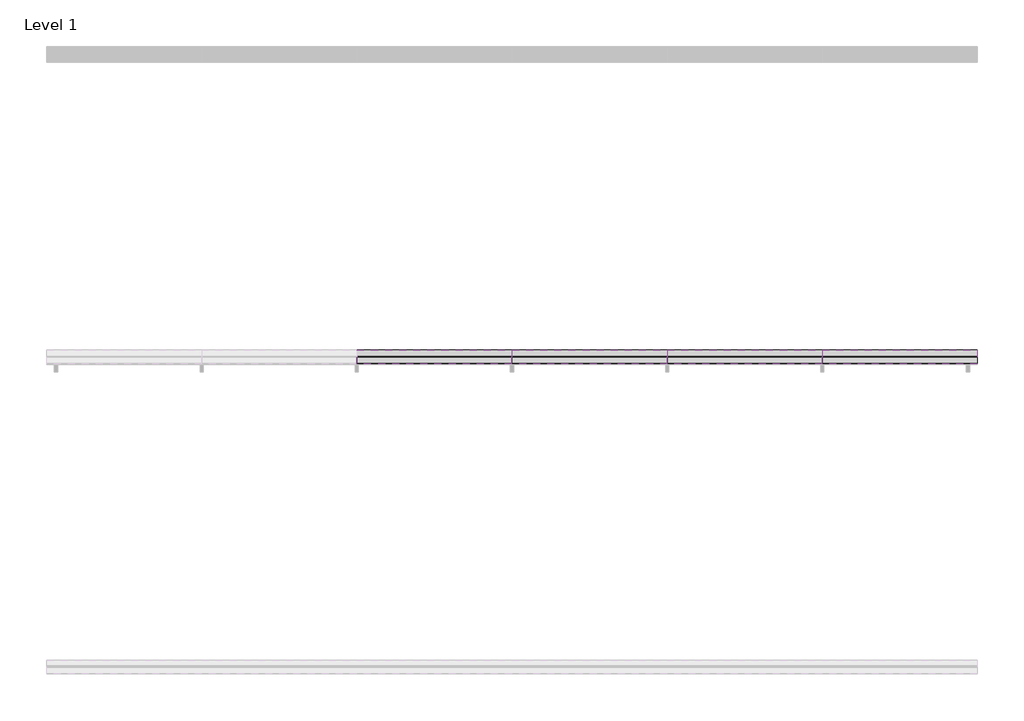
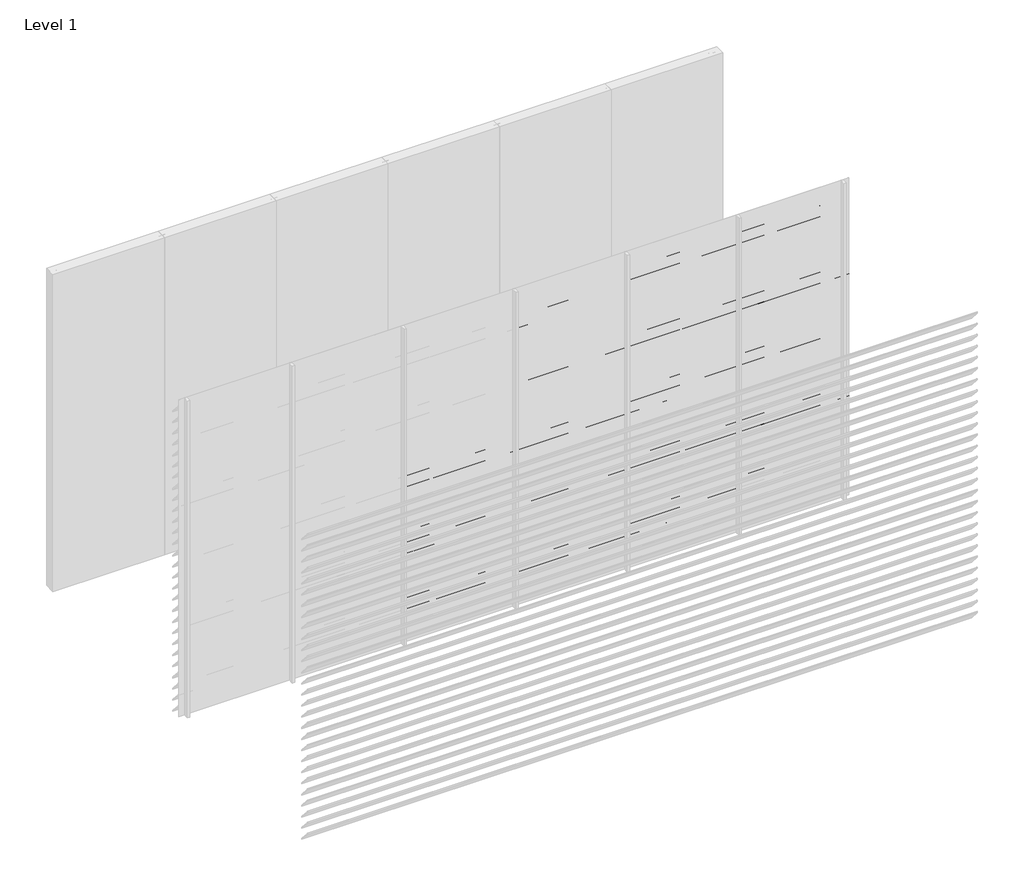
# One storey, part 7 of 9: 95 proxies.
"""IFC4 building model written with IfcOpenShell, lengths in millimetres."""

import ifcopenshell
import ifcopenshell.guid

model = None  # the IFC model being written
_history = None  # IfcOwnerHistory: only IFC2X3 demands one
_inside = {}  # id of a spatial element -> (the spatial element, [elements in it])
_under = {}  # id of a project, library or spatial element -> (it, [spatial elements below it])
_declared = {}  # id of a project -> (the project, [libraries it declares])
_typed = {}  # id of a type object -> (the type object, [elements of that type])
_made_of = {}  # id of a material, layer set ... -> (it, [elements and type objects made of it])


def new_model(schema):
    """Start an empty IFC model of exactly this schema.

    Asked for "IFC4X3", IfcOpenShell would pick the latest addendum, in which some entities
    have other attributes; the version numbers below select the first issue.
    IFC2X3 requires an IfcOwnerHistory on every rooted entity: one is made here for all.
    """
    global model, _history
    if schema == "IFC4X3":
        model = ifcopenshell.file(schema_version=(4, 3, 0, 0))
    else:
        model = ifcopenshell.file(schema=schema)
    _inside.clear()
    _under.clear()
    _declared.clear()
    _typed.clear()
    _made_of.clear()
    _history = None
    if model.schema == "IFC2X3":
        org = make("IfcOrganization", Name="unknown")
        user = make(
            "IfcPersonAndOrganization",
            ThePerson=make("IfcPerson", FamilyName="unknown"),
            TheOrganization=org,
        )
        app = make(
            "IfcApplication",
            ApplicationDeveloper=org,
            Version="unknown",
            ApplicationFullName="unknown",
            ApplicationIdentifier="unknown",
        )
        _history = make(
            "IfcOwnerHistory",
            OwningUser=user,
            OwningApplication=app,
            ChangeAction="ADDED",
            CreationDate=0,
        )
    return model


def make(cls, **values):
    """One entity of the class cls with the attributes given. An attribute that is None is left unset."""
    return model.create_entity(
        cls, **{name: value for name, value in values.items() if value is not None}
    )


def rooted(cls, **values):
    """An entity with a GlobalId (a new one), such as an element, a storey or a relation."""
    return make(cls, GlobalId=ifcopenshell.guid.new(), OwnerHistory=_history, **values)


def si_unit(unit_type, name, prefix=None):
    """IfcSIUnit, for example si_unit("LENGTHUNIT", "METRE", prefix="MILLI")."""
    return make("IfcSIUnit", UnitType=unit_type, Prefix=prefix, Name=name)


def assignment(units):
    """IfcUnitAssignment: the units of a project."""
    return None if units is None else make("IfcUnitAssignment", Units=units)


def point(xyz):
    """IfcCartesianPoint."""
    return None if xyz is None else make("IfcCartesianPoint", Coordinates=xyz)


def direction(xyz):
    """IfcDirection."""
    return None if xyz is None else make("IfcDirection", DirectionRatios=xyz)


def frame(location, z_axis=None, x_axis=None):
    """IfcAxis2Placement3D, a coordinate frame: its origin and axes. An axis left out is left unset."""
    return make(
        "IfcAxis2Placement3D",
        Location=point(location),
        Axis=direction(z_axis),
        RefDirection=direction(x_axis),
    )


def origin():
    """The frame at (0, 0, 0) with its axes left unset."""
    return frame((0.0, 0.0, 0.0))


def place(relative_to, where):
    """IfcLocalPlacement: puts the frame where relative to a parent placement (None: the world)."""
    return make(
        "IfcLocalPlacement", PlacementRelTo=relative_to, RelativePlacement=where
    )


def context(
    kind, dimensions, precision=None, world=None, true_north=None, identifier=None
):
    """IfcGeometricRepresentationContext, for example the 3D "Model" context."""
    return make(
        "IfcGeometricRepresentationContext",
        ContextIdentifier=identifier,
        ContextType=kind,
        CoordinateSpaceDimension=dimensions,
        Precision=precision,
        WorldCoordinateSystem=world,
        TrueNorth=true_north,
    )


def project(units=None, contexts=None):
    """IfcProject with its units and contexts."""
    return rooted(
        "IfcProject",
        Name="project",
        RepresentationContexts=contexts,
        UnitsInContext=assignment(units),
    )


def spatial(cls, under=None, at=None, **own):
    """A site, building, storey or space (cls), placed at a placement, below another one or the project."""
    s = rooted(cls, ObjectPlacement=at, **own)
    if under is not None:
        _under.setdefault(under.id(), (under, []))[1].append(s)
    return s


def polyline(points):
    """IfcPolyline through the points."""
    return make("IfcPolyline", Points=[point(p) for p in points])


def outline(outer, holes=None, kind="AREA"):
    """IfcArbitraryClosedProfileDef: a profile drawn as a closed curve; with holes, ...WithVoids."""
    if holes is None:
        return make("IfcArbitraryClosedProfileDef", ProfileType=kind, OuterCurve=outer)
    return make(
        "IfcArbitraryProfileDefWithVoids",
        ProfileType=kind,
        OuterCurve=outer,
        InnerCurves=holes,
    )


def extrude(swept, where, along, depth):
    """IfcExtrudedAreaSolid: the profile swept, set in the frame where, extruded along a direction by depth."""
    return make(
        "IfcExtrudedAreaSolid",
        SweptArea=swept,
        Position=where,
        ExtrudedDirection=direction(along),
        Depth=depth,
    )


def shape(context_of_items, identifier, shape_type, items):
    """IfcShapeRepresentation: the items that make up one representation, for example the "Body"."""
    return make(
        "IfcShapeRepresentation",
        ContextOfItems=context_of_items,
        RepresentationIdentifier=identifier,
        RepresentationType=shape_type,
        Items=items,
    )


def made_of(thing, what):
    """Note that an element or type object is made of a material, layer set ...; save() writes the relation."""
    if what is not None:
        _made_of.setdefault(what.id(), (what, []))[1].append(thing)
    return thing


def element(
    cls,
    number,
    at=None,
    inside=None,
    cuts=None,
    type_object=None,
    material=None,
    context=None,
    identifier="Body",
    shape_type=None,
    held_by="IfcProductDefinitionShape",
    body=None,
    shapes=None,
    **own,
):
    """One element of the class cls, such as IfcWall. Its Tag is "e" and its number.

    at: its placement. inside: the storey or other place that contains it. cuts: it is an
    opening in that element (IfcRelVoidsElement). A single representation is given by context,
    identifier, shape_type and body (its items); several are given by shapes. held_by: the class
    of the entity that holds the representations. save() writes the other relations.
    """
    e = rooted(cls, Tag="e%d" % number, ObjectPlacement=at, **own)
    if body is not None:
        shapes = [shape(context, identifier, shape_type, body)]
    if shapes is not None:
        e.Representation = make(held_by, Representations=shapes)
    if inside is not None:
        _inside.setdefault(inside.id(), (inside, []))[1].append(e)
    if cuts is not None:
        rooted(
            "IfcRelVoidsElement", RelatingBuildingElement=cuts, RelatedOpeningElement=e
        )
    if type_object is not None:
        _typed.setdefault(type_object.id(), (type_object, []))[1].append(e)
    return made_of(e, material)


def aggregate(whole, parts):
    """IfcRelAggregates: a whole, such as a stair, and the parts it consists of."""
    return rooted("IfcRelAggregates", RelatingObject=whole, RelatedObjects=parts)


def save(model, path):
    """Write the relations noted so far, then the file.

    IfcRelAggregates (storeys below a building ...), IfcRelContainedInSpatialStructure (elements
    in a storey), IfcRelDefinesByType, IfcRelAssociatesMaterial and IfcRelDeclares: one each for
    every whole, place, type object, material and project.
    """
    for whole, parts in _under.values():
        aggregate(whole, parts)
    for where, things in _inside.values():
        rooted(
            "IfcRelContainedInSpatialStructure",
            RelatedElements=things,
            RelatingStructure=where,
        )
    for kind, things in _typed.values():
        rooted("IfcRelDefinesByType", RelatedObjects=things, RelatingType=kind)
    for what, things in _made_of.values():
        rooted("IfcRelAssociatesMaterial", RelatedObjects=things, RelatingMaterial=what)
    for by, libraries in _declared.values():
        rooted("IfcRelDeclares", RelatingContext=by, RelatedDefinitions=libraries)
    model.write(path)


model = new_model("IFC4")

# Units and contexts
model_context = context("Model", 3, world=origin())
ifc_project = project(units=[si_unit("LENGTHUNIT", "METRE", prefix="MILLI")], contexts=[model_context])

# Site, building, storey
site = spatial("IfcSite", under=ifc_project)
building = spatial("IfcBuilding", under=site)
storey = spatial("IfcBuildingStorey", under=building, Name="Level 1", Elevation=0.0)

# Proxies
placement = place(None, origin())
element("IfcBuildingElementProxy", 1, Name="Wall Sweeps", at=placement, inside=storey, context=model_context, shape_type="SweptSolid", body=[
    extrude(outline(polyline([(-5995.0, 1575.0), (-5995.0, 1570.6232888), (-5908.0, 1474.0), (-5908.0, 1464.0), (-5997.0, 1562.8445138), (-5997.0, 1575.0), (-5995.0, 1575.0)])), frame((2000.0, 0.0, 0.0), z_axis=(1.0, 0.0, 0.0), x_axis=(0.0, 1.0, 0.0)), (0.0, 0.0, 1.0), 1000.0),
])
element("IfcBuildingElementProxy", 2, Name="Wall Sweeps", at=placement, inside=storey, context=model_context, shape_type="SweptSolid", body=[
    extrude(outline(polyline([(-5995.0, 1470.0), (-5995.0, 1465.6232888), (-5908.0, 1369.0), (-5908.0, 1359.0), (-5997.0, 1457.8445138), (-5997.0, 1470.0), (-5995.0, 1470.0)])), frame((2000.0, 0.0, 0.0), z_axis=(1.0, 0.0, 0.0), x_axis=(0.0, 1.0, 0.0)), (0.0, 0.0, 1.0), 1000.0),
])
element("IfcBuildingElementProxy", 3, Name="Wall Sweeps", at=placement, inside=storey, context=model_context, shape_type="SweptSolid", body=[
    extrude(outline(polyline([(-5995.0, 1365.0), (-5995.0, 1360.6232888), (-5908.0, 1264.0), (-5908.0, 1254.0), (-5997.0, 1352.8445138), (-5997.0, 1365.0), (-5995.0, 1365.0)])), frame((2000.0, 0.0, 0.0), z_axis=(1.0, 0.0, 0.0), x_axis=(0.0, 1.0, 0.0)), (0.0, 0.0, 1.0), 1000.0),
])
element("IfcBuildingElementProxy", 4, Name="Wall Sweeps", at=placement, inside=storey, context=model_context, shape_type="SweptSolid", body=[
    extrude(outline(polyline([(-5995.0, 1260.0), (-5995.0, 1255.6232888), (-5908.0, 1159.0), (-5908.0, 1149.0), (-5997.0, 1247.8445138), (-5997.0, 1260.0), (-5995.0, 1260.0)])), frame((2000.0, 0.0, 0.0), z_axis=(1.0, 0.0, 0.0), x_axis=(0.0, 1.0, 0.0)), (0.0, 0.0, 1.0), 1000.0),
])
element("IfcBuildingElementProxy", 5, Name="Wall Sweeps", at=placement, inside=storey, context=model_context, shape_type="SweptSolid", body=[
    extrude(outline(polyline([(-5995.0, 1155.0), (-5995.0, 1150.6232888), (-5908.0, 1054.0), (-5908.0, 1044.0), (-5997.0, 1142.8445138), (-5997.0, 1155.0), (-5995.0, 1155.0)])), frame((2000.0, 0.0, 0.0), z_axis=(1.0, 0.0, 0.0), x_axis=(0.0, 1.0, 0.0)), (0.0, 0.0, 1.0), 1000.0),
])
element("IfcBuildingElementProxy", 6, Name="Wall Sweeps", at=placement, inside=storey, context=model_context, shape_type="SweptSolid", body=[
    extrude(outline(polyline([(-5995.0, 1050.0), (-5995.0, 1045.6232888), (-5908.0, 949.0), (-5908.0, 939.0), (-5997.0, 1037.8445138), (-5997.0, 1050.0), (-5995.0, 1050.0)])), frame((2000.0, 0.0, 0.0), z_axis=(1.0, 0.0, 0.0), x_axis=(0.0, 1.0, 0.0)), (0.0, 0.0, 1.0), 1000.0),
])
element("IfcBuildingElementProxy", 7, Name="Wall Sweeps", at=placement, inside=storey, context=model_context, shape_type="SweptSolid", body=[
    extrude(outline(polyline([(-5995.0, 945.0), (-5995.0, 940.6232888), (-5908.0, 844.0), (-5908.0, 834.0), (-5997.0, 932.8445138), (-5997.0, 945.0), (-5995.0, 945.0)])), frame((2000.0, 0.0, 0.0), z_axis=(1.0, 0.0, 0.0), x_axis=(0.0, 1.0, 0.0)), (0.0, 0.0, 1.0), 1000.0),
])
element("IfcBuildingElementProxy", 8, Name="Wall Sweeps", at=placement, inside=storey, context=model_context, shape_type="SweptSolid", body=[
    extrude(outline(polyline([(-5995.0, 840.0), (-5995.0, 835.6232888), (-5908.0, 739.0), (-5908.0, 729.0), (-5997.0, 827.8445138), (-5997.0, 840.0), (-5995.0, 840.0)])), frame((2000.0, 0.0, 0.0), z_axis=(1.0, 0.0, 0.0), x_axis=(0.0, 1.0, 0.0)), (0.0, 0.0, 1.0), 1000.0),
])
element("IfcBuildingElementProxy", 9, Name="Wall Sweeps", at=placement, inside=storey, context=model_context, shape_type="SweptSolid", body=[
    extrude(outline(polyline([(-5995.0, 735.0), (-5995.0, 730.6232888), (-5908.0, 634.0), (-5908.0, 624.0), (-5997.0, 722.8445138), (-5997.0, 735.0), (-5995.0, 735.0)])), frame((2000.0, 0.0, 0.0), z_axis=(1.0, 0.0, 0.0), x_axis=(0.0, 1.0, 0.0)), (0.0, 0.0, 1.0), 1000.0),
])
element("IfcBuildingElementProxy", 10, Name="Wall Sweeps", at=placement, inside=storey, context=model_context, shape_type="SweptSolid", body=[
    extrude(outline(polyline([(-5995.0, 630.0), (-5995.0, 625.6232888), (-5908.0, 529.0), (-5908.0, 519.0), (-5997.0, 617.8445138), (-5997.0, 630.0), (-5995.0, 630.0)])), frame((2000.0, 0.0, 0.0), z_axis=(1.0, 0.0, 0.0), x_axis=(0.0, 1.0, 0.0)), (0.0, 0.0, 1.0), 1000.0),
])
element("IfcBuildingElementProxy", 11, Name="Wall Sweeps", at=placement, inside=storey, context=model_context, shape_type="SweptSolid", body=[
    extrude(outline(polyline([(-5995.0, 525.0), (-5995.0, 520.6232888), (-5908.0, 424.0), (-5908.0, 414.0), (-5997.0, 512.8445138), (-5997.0, 525.0), (-5995.0, 525.0)])), frame((2000.0, 0.0, 0.0), z_axis=(1.0, 0.0, 0.0), x_axis=(0.0, 1.0, 0.0)), (0.0, 0.0, 1.0), 1000.0),
])
element("IfcBuildingElementProxy", 12, Name="Wall Sweeps", at=placement, inside=storey, context=model_context, shape_type="SweptSolid", body=[
    extrude(outline(polyline([(-5995.0, 420.0), (-5995.0, 415.6232888), (-5908.0, 319.0), (-5908.0, 309.0), (-5997.0, 407.8445138), (-5997.0, 420.0), (-5995.0, 420.0)])), frame((2000.0, 0.0, 0.0), z_axis=(1.0, 0.0, 0.0), x_axis=(0.0, 1.0, 0.0)), (0.0, 0.0, 1.0), 1000.0),
])
element("IfcBuildingElementProxy", 13, Name="Wall Sweeps", at=placement, inside=storey, context=model_context, shape_type="SweptSolid", body=[
    extrude(outline(polyline([(-5995.0, 315.0), (-5995.0, 310.6232888), (-5908.0, 214.0), (-5908.0, 204.0), (-5997.0, 302.8445138), (-5997.0, 315.0), (-5995.0, 315.0)])), frame((2000.0, 0.0, 0.0), z_axis=(1.0, 0.0, 0.0), x_axis=(0.0, 1.0, 0.0)), (0.0, 0.0, 1.0), 1000.0),
])
element("IfcBuildingElementProxy", 14, Name="Wall Sweeps", at=placement, inside=storey, context=model_context, shape_type="SweptSolid", body=[
    extrude(outline(polyline([(-5995.0, 210.0), (-5995.0, 205.6232888), (-5908.0, 109.0), (-5908.0, 99.0), (-5997.0, 197.8445138), (-5997.0, 210.0), (-5995.0, 210.0)])), frame((2000.0, 0.0, 0.0), z_axis=(1.0, 0.0, 0.0), x_axis=(0.0, 1.0, 0.0)), (0.0, 0.0, 1.0), 1000.0),
])
element("IfcBuildingElementProxy", 15, Name="Wall Sweeps", at=placement, inside=storey, context=model_context, shape_type="SweptSolid", body=[
    extrude(outline(polyline([(-5995.0, 105.0), (-5995.0, 100.6232888), (-5908.0, 4.0), (-5908.0, -6.0), (-5997.0, 92.8445138), (-5997.0, 105.0), (-5995.0, 105.0)])), frame((2000.0, 0.0, 0.0), z_axis=(1.0, 0.0, 0.0), x_axis=(0.0, 1.0, 0.0)), (0.0, 0.0, 1.0), 1000.0),
])
element("IfcBuildingElementProxy", 16, Name="Wall Sweeps", at=placement, inside=storey, context=model_context, shape_type="SweptSolid", body=[
    extrude(outline(polyline([(-5995.0, 2940.0), (-5995.0, 2935.6232888), (-5908.0, 2839.0), (-5908.0, 2829.0), (-5997.0, 2927.8445138), (-5997.0, 2940.0), (-5995.0, 2940.0)])), frame((3000.0, 0.0, 0.0), z_axis=(1.0, 0.0, 0.0), x_axis=(0.0, 1.0, 0.0)), (0.0, 0.0, 1.0), 1000.0),
])
element("IfcBuildingElementProxy", 17, Name="Wall Sweeps", at=placement, inside=storey, context=model_context, shape_type="SweptSolid", body=[
    extrude(outline(polyline([(-5995.0, 2835.0), (-5995.0, 2830.6232888), (-5908.0, 2734.0), (-5908.0, 2724.0), (-5997.0, 2822.8445138), (-5997.0, 2835.0), (-5995.0, 2835.0)])), frame((3000.0, 0.0, 0.0), z_axis=(1.0, 0.0, 0.0), x_axis=(0.0, 1.0, 0.0)), (0.0, 0.0, 1.0), 1000.0),
])
element("IfcBuildingElementProxy", 18, Name="Wall Sweeps", at=placement, inside=storey, context=model_context, shape_type="SweptSolid", body=[
    extrude(outline(polyline([(-5995.0, 2730.0), (-5995.0, 2725.6232888), (-5908.0, 2629.0), (-5908.0, 2619.0), (-5997.0, 2717.8445138), (-5997.0, 2730.0), (-5995.0, 2730.0)])), frame((3000.0, 0.0, 0.0), z_axis=(1.0, 0.0, 0.0), x_axis=(0.0, 1.0, 0.0)), (0.0, 0.0, 1.0), 1000.0),
])
element("IfcBuildingElementProxy", 19, Name="Wall Sweeps", at=placement, inside=storey, context=model_context, shape_type="SweptSolid", body=[
    extrude(outline(polyline([(-5995.0, 2625.0), (-5995.0, 2620.6232888), (-5908.0, 2524.0), (-5908.0, 2514.0), (-5997.0, 2612.8445138), (-5997.0, 2625.0), (-5995.0, 2625.0)])), frame((3000.0, 0.0, 0.0), z_axis=(1.0, 0.0, 0.0), x_axis=(0.0, 1.0, 0.0)), (0.0, 0.0, 1.0), 1000.0),
])
element("IfcBuildingElementProxy", 20, Name="Wall Sweeps", at=placement, inside=storey, context=model_context, shape_type="SweptSolid", body=[
    extrude(outline(polyline([(-5995.0, 2520.0), (-5995.0, 2515.6232888), (-5908.0, 2419.0), (-5908.0, 2409.0), (-5997.0, 2507.8445138), (-5997.0, 2520.0), (-5995.0, 2520.0)])), frame((3000.0, 0.0, 0.0), z_axis=(1.0, 0.0, 0.0), x_axis=(0.0, 1.0, 0.0)), (0.0, 0.0, 1.0), 1000.0),
])
element("IfcBuildingElementProxy", 21, Name="Wall Sweeps", at=placement, inside=storey, context=model_context, shape_type="SweptSolid", body=[
    extrude(outline(polyline([(-5995.0, 2415.0), (-5995.0, 2410.6232888), (-5908.0, 2314.0), (-5908.0, 2304.0), (-5997.0, 2402.8445138), (-5997.0, 2415.0), (-5995.0, 2415.0)])), frame((3000.0, 0.0, 0.0), z_axis=(1.0, 0.0, 0.0), x_axis=(0.0, 1.0, 0.0)), (0.0, 0.0, 1.0), 1000.0),
])
element("IfcBuildingElementProxy", 22, Name="Wall Sweeps", at=placement, inside=storey, context=model_context, shape_type="SweptSolid", body=[
    extrude(outline(polyline([(-5995.0, 2310.0), (-5995.0, 2305.6232888), (-5908.0, 2209.0), (-5908.0, 2199.0), (-5997.0, 2297.8445138), (-5997.0, 2310.0), (-5995.0, 2310.0)])), frame((3000.0, 0.0, 0.0), z_axis=(1.0, 0.0, 0.0), x_axis=(0.0, 1.0, 0.0)), (0.0, 0.0, 1.0), 1000.0),
])
element("IfcBuildingElementProxy", 23, Name="Wall Sweeps", at=placement, inside=storey, context=model_context, shape_type="SweptSolid", body=[
    extrude(outline(polyline([(-5995.0, 2205.0), (-5995.0, 2200.6232888), (-5908.0, 2104.0), (-5908.0, 2094.0), (-5997.0, 2192.8445138), (-5997.0, 2205.0), (-5995.0, 2205.0)])), frame((3000.0, 0.0, 0.0), z_axis=(1.0, 0.0, 0.0), x_axis=(0.0, 1.0, 0.0)), (0.0, 0.0, 1.0), 1000.0),
])
element("IfcBuildingElementProxy", 24, Name="Wall Sweeps", at=placement, inside=storey, context=model_context, shape_type="SweptSolid", body=[
    extrude(outline(polyline([(-5995.0, 2100.0), (-5995.0, 2095.6232888), (-5908.0, 1999.0), (-5908.0, 1989.0), (-5997.0, 2087.8445138), (-5997.0, 2100.0), (-5995.0, 2100.0)])), frame((3000.0, 0.0, 0.0), z_axis=(1.0, 0.0, 0.0), x_axis=(0.0, 1.0, 0.0)), (0.0, 0.0, 1.0), 1000.0),
])
element("IfcBuildingElementProxy", 25, Name="Wall Sweeps", at=placement, inside=storey, context=model_context, shape_type="SweptSolid", body=[
    extrude(outline(polyline([(-5995.0, 1995.0), (-5995.0, 1990.6232888), (-5908.0, 1894.0), (-5908.0, 1884.0), (-5997.0, 1982.8445138), (-5997.0, 1995.0), (-5995.0, 1995.0)])), frame((3000.0, 0.0, 0.0), z_axis=(1.0, 0.0, 0.0), x_axis=(0.0, 1.0, 0.0)), (0.0, 0.0, 1.0), 1000.0),
])
element("IfcBuildingElementProxy", 26, Name="Wall Sweeps", at=placement, inside=storey, context=model_context, shape_type="SweptSolid", body=[
    extrude(outline(polyline([(-5995.0, 1890.0), (-5995.0, 1885.6232888), (-5908.0, 1789.0), (-5908.0, 1779.0), (-5997.0, 1877.8445138), (-5997.0, 1890.0), (-5995.0, 1890.0)])), frame((3000.0, 0.0, 0.0), z_axis=(1.0, 0.0, 0.0), x_axis=(0.0, 1.0, 0.0)), (0.0, 0.0, 1.0), 1000.0),
])
element("IfcBuildingElementProxy", 27, Name="Wall Sweeps", at=placement, inside=storey, context=model_context, shape_type="SweptSolid", body=[
    extrude(outline(polyline([(-5995.0, 1785.0), (-5995.0, 1780.6232888), (-5908.0, 1684.0), (-5908.0, 1674.0), (-5997.0, 1772.8445138), (-5997.0, 1785.0), (-5995.0, 1785.0)])), frame((3000.0, 0.0, 0.0), z_axis=(1.0, 0.0, 0.0), x_axis=(0.0, 1.0, 0.0)), (0.0, 0.0, 1.0), 1000.0),
])
element("IfcBuildingElementProxy", 28, Name="Wall Sweeps", at=placement, inside=storey, context=model_context, shape_type="SweptSolid", body=[
    extrude(outline(polyline([(-5995.0, 1680.0), (-5995.0, 1675.6232888), (-5908.0, 1579.0), (-5908.0, 1569.0), (-5997.0, 1667.8445138), (-5997.0, 1680.0), (-5995.0, 1680.0)])), frame((3000.0, 0.0, 0.0), z_axis=(1.0, 0.0, 0.0), x_axis=(0.0, 1.0, 0.0)), (0.0, 0.0, 1.0), 1000.0),
])
element("IfcBuildingElementProxy", 29, Name="Wall Sweeps", at=placement, inside=storey, context=model_context, shape_type="SweptSolid", body=[
    extrude(outline(polyline([(-5995.0, 1575.0), (-5995.0, 1570.6232888), (-5908.0, 1474.0), (-5908.0, 1464.0), (-5997.0, 1562.8445138), (-5997.0, 1575.0), (-5995.0, 1575.0)])), frame((3000.0, 0.0, 0.0), z_axis=(1.0, 0.0, 0.0), x_axis=(0.0, 1.0, 0.0)), (0.0, 0.0, 1.0), 1000.0),
])
element("IfcBuildingElementProxy", 30, Name="Wall Sweeps", at=placement, inside=storey, context=model_context, shape_type="SweptSolid", body=[
    extrude(outline(polyline([(-5995.0, 1470.0), (-5995.0, 1465.6232888), (-5908.0, 1369.0), (-5908.0, 1359.0), (-5997.0, 1457.8445138), (-5997.0, 1470.0), (-5995.0, 1470.0)])), frame((3000.0, 0.0, 0.0), z_axis=(1.0, 0.0, 0.0), x_axis=(0.0, 1.0, 0.0)), (0.0, 0.0, 1.0), 1000.0),
])
element("IfcBuildingElementProxy", 31, Name="Wall Sweeps", at=placement, inside=storey, context=model_context, shape_type="SweptSolid", body=[
    extrude(outline(polyline([(-5995.0, 1365.0), (-5995.0, 1360.6232888), (-5908.0, 1264.0), (-5908.0, 1254.0), (-5997.0, 1352.8445138), (-5997.0, 1365.0), (-5995.0, 1365.0)])), frame((3000.0, 0.0, 0.0), z_axis=(1.0, 0.0, 0.0), x_axis=(0.0, 1.0, 0.0)), (0.0, 0.0, 1.0), 1000.0),
])
element("IfcBuildingElementProxy", 32, Name="Wall Sweeps", at=placement, inside=storey, context=model_context, shape_type="SweptSolid", body=[
    extrude(outline(polyline([(-5995.0, 1260.0), (-5995.0, 1255.6232888), (-5908.0, 1159.0), (-5908.0, 1149.0), (-5997.0, 1247.8445138), (-5997.0, 1260.0), (-5995.0, 1260.0)])), frame((3000.0, 0.0, 0.0), z_axis=(1.0, 0.0, 0.0), x_axis=(0.0, 1.0, 0.0)), (0.0, 0.0, 1.0), 1000.0),
])
element("IfcBuildingElementProxy", 33, Name="Wall Sweeps", at=placement, inside=storey, context=model_context, shape_type="SweptSolid", body=[
    extrude(outline(polyline([(-5995.0, 1155.0), (-5995.0, 1150.6232888), (-5908.0, 1054.0), (-5908.0, 1044.0), (-5997.0, 1142.8445138), (-5997.0, 1155.0), (-5995.0, 1155.0)])), frame((3000.0, 0.0, 0.0), z_axis=(1.0, 0.0, 0.0), x_axis=(0.0, 1.0, 0.0)), (0.0, 0.0, 1.0), 1000.0),
])
element("IfcBuildingElementProxy", 34, Name="Wall Sweeps", at=placement, inside=storey, context=model_context, shape_type="SweptSolid", body=[
    extrude(outline(polyline([(-5995.0, 1050.0), (-5995.0, 1045.6232888), (-5908.0, 949.0), (-5908.0, 939.0), (-5997.0, 1037.8445138), (-5997.0, 1050.0), (-5995.0, 1050.0)])), frame((3000.0, 0.0, 0.0), z_axis=(1.0, 0.0, 0.0), x_axis=(0.0, 1.0, 0.0)), (0.0, 0.0, 1.0), 1000.0),
])
element("IfcBuildingElementProxy", 35, Name="Wall Sweeps", at=placement, inside=storey, context=model_context, shape_type="SweptSolid", body=[
    extrude(outline(polyline([(-5995.0, 945.0), (-5995.0, 940.6232888), (-5908.0, 844.0), (-5908.0, 834.0), (-5997.0, 932.8445138), (-5997.0, 945.0), (-5995.0, 945.0)])), frame((3000.0, 0.0, 0.0), z_axis=(1.0, 0.0, 0.0), x_axis=(0.0, 1.0, 0.0)), (0.0, 0.0, 1.0), 1000.0),
])
element("IfcBuildingElementProxy", 36, Name="Wall Sweeps", at=placement, inside=storey, context=model_context, shape_type="SweptSolid", body=[
    extrude(outline(polyline([(-5995.0, 840.0), (-5995.0, 835.6232888), (-5908.0, 739.0), (-5908.0, 729.0), (-5997.0, 827.8445138), (-5997.0, 840.0), (-5995.0, 840.0)])), frame((3000.0, 0.0, 0.0), z_axis=(1.0, 0.0, 0.0), x_axis=(0.0, 1.0, 0.0)), (0.0, 0.0, 1.0), 1000.0),
])
element("IfcBuildingElementProxy", 37, Name="Wall Sweeps", at=placement, inside=storey, context=model_context, shape_type="SweptSolid", body=[
    extrude(outline(polyline([(-5995.0, 735.0), (-5995.0, 730.6232888), (-5908.0, 634.0), (-5908.0, 624.0), (-5997.0, 722.8445138), (-5997.0, 735.0), (-5995.0, 735.0)])), frame((3000.0, 0.0, 0.0), z_axis=(1.0, 0.0, 0.0), x_axis=(0.0, 1.0, 0.0)), (0.0, 0.0, 1.0), 1000.0),
])
element("IfcBuildingElementProxy", 38, Name="Wall Sweeps", at=placement, inside=storey, context=model_context, shape_type="SweptSolid", body=[
    extrude(outline(polyline([(-5995.0, 630.0), (-5995.0, 625.6232888), (-5908.0, 529.0), (-5908.0, 519.0), (-5997.0, 617.8445138), (-5997.0, 630.0), (-5995.0, 630.0)])), frame((3000.0, 0.0, 0.0), z_axis=(1.0, 0.0, 0.0), x_axis=(0.0, 1.0, 0.0)), (0.0, 0.0, 1.0), 1000.0),
])
element("IfcBuildingElementProxy", 39, Name="Wall Sweeps", at=placement, inside=storey, context=model_context, shape_type="SweptSolid", body=[
    extrude(outline(polyline([(-5995.0, 525.0), (-5995.0, 520.6232888), (-5908.0, 424.0), (-5908.0, 414.0), (-5997.0, 512.8445138), (-5997.0, 525.0), (-5995.0, 525.0)])), frame((3000.0, 0.0, 0.0), z_axis=(1.0, 0.0, 0.0), x_axis=(0.0, 1.0, 0.0)), (0.0, 0.0, 1.0), 1000.0),
])
element("IfcBuildingElementProxy", 40, Name="Wall Sweeps", at=placement, inside=storey, context=model_context, shape_type="SweptSolid", body=[
    extrude(outline(polyline([(-5995.0, 420.0), (-5995.0, 415.6232888), (-5908.0, 319.0), (-5908.0, 309.0), (-5997.0, 407.8445138), (-5997.0, 420.0), (-5995.0, 420.0)])), frame((3000.0, 0.0, 0.0), z_axis=(1.0, 0.0, 0.0), x_axis=(0.0, 1.0, 0.0)), (0.0, 0.0, 1.0), 1000.0),
])
element("IfcBuildingElementProxy", 41, Name="Wall Sweeps", at=placement, inside=storey, context=model_context, shape_type="SweptSolid", body=[
    extrude(outline(polyline([(-5995.0, 315.0), (-5995.0, 310.6232888), (-5908.0, 214.0), (-5908.0, 204.0), (-5997.0, 302.8445138), (-5997.0, 315.0), (-5995.0, 315.0)])), frame((3000.0, 0.0, 0.0), z_axis=(1.0, 0.0, 0.0), x_axis=(0.0, 1.0, 0.0)), (0.0, 0.0, 1.0), 1000.0),
])
element("IfcBuildingElementProxy", 42, Name="Wall Sweeps", at=placement, inside=storey, context=model_context, shape_type="SweptSolid", body=[
    extrude(outline(polyline([(-5995.0, 210.0), (-5995.0, 205.6232888), (-5908.0, 109.0), (-5908.0, 99.0), (-5997.0, 197.8445138), (-5997.0, 210.0), (-5995.0, 210.0)])), frame((3000.0, 0.0, 0.0), z_axis=(1.0, 0.0, 0.0), x_axis=(0.0, 1.0, 0.0)), (0.0, 0.0, 1.0), 1000.0),
])
element("IfcBuildingElementProxy", 43, Name="Wall Sweeps", at=placement, inside=storey, context=model_context, shape_type="SweptSolid", body=[
    extrude(outline(polyline([(-5995.0, 105.0), (-5995.0, 100.6232888), (-5908.0, 4.0), (-5908.0, -6.0), (-5997.0, 92.8445138), (-5997.0, 105.0), (-5995.0, 105.0)])), frame((3000.0, 0.0, 0.0), z_axis=(1.0, 0.0, 0.0), x_axis=(0.0, 1.0, 0.0)), (0.0, 0.0, 1.0), 1000.0),
])
element("IfcBuildingElementProxy", 44, Name="Wall Sweeps", at=placement, inside=storey, context=model_context, shape_type="SweptSolid", body=[
    extrude(outline(polyline([(-5995.0, 2940.0), (-5995.0, 2935.6232888), (-5908.0, 2839.0), (-5908.0, 2829.0), (-5997.0, 2927.8445138), (-5997.0, 2940.0), (-5995.0, 2940.0)])), frame((4000.0, 0.0, 0.0), z_axis=(1.0, 0.0, 0.0), x_axis=(0.0, 1.0, 0.0)), (0.0, 0.0, 1.0), 1000.0),
])
element("IfcBuildingElementProxy", 45, Name="Wall Sweeps", at=placement, inside=storey, context=model_context, shape_type="SweptSolid", body=[
    extrude(outline(polyline([(-5995.0, 2835.0), (-5995.0, 2830.6232888), (-5908.0, 2734.0), (-5908.0, 2724.0), (-5997.0, 2822.8445138), (-5997.0, 2835.0), (-5995.0, 2835.0)])), frame((4000.0, 0.0, 0.0), z_axis=(1.0, 0.0, 0.0), x_axis=(0.0, 1.0, 0.0)), (0.0, 0.0, 1.0), 1000.0),
])
element("IfcBuildingElementProxy", 46, Name="Wall Sweeps", at=placement, inside=storey, context=model_context, shape_type="SweptSolid", body=[
    extrude(outline(polyline([(-5995.0, 2730.0), (-5995.0, 2725.6232888), (-5908.0, 2629.0), (-5908.0, 2619.0), (-5997.0, 2717.8445138), (-5997.0, 2730.0), (-5995.0, 2730.0)])), frame((4000.0, 0.0, 0.0), z_axis=(1.0, 0.0, 0.0), x_axis=(0.0, 1.0, 0.0)), (0.0, 0.0, 1.0), 1000.0),
])
element("IfcBuildingElementProxy", 47, Name="Wall Sweeps", at=placement, inside=storey, context=model_context, shape_type="SweptSolid", body=[
    extrude(outline(polyline([(-5995.0, 2625.0), (-5995.0, 2620.6232888), (-5908.0, 2524.0), (-5908.0, 2514.0), (-5997.0, 2612.8445138), (-5997.0, 2625.0), (-5995.0, 2625.0)])), frame((4000.0, 0.0, 0.0), z_axis=(1.0, 0.0, 0.0), x_axis=(0.0, 1.0, 0.0)), (0.0, 0.0, 1.0), 1000.0),
])
element("IfcBuildingElementProxy", 48, Name="Wall Sweeps", at=placement, inside=storey, context=model_context, shape_type="SweptSolid", body=[
    extrude(outline(polyline([(-5995.0, 2520.0), (-5995.0, 2515.6232888), (-5908.0, 2419.0), (-5908.0, 2409.0), (-5997.0, 2507.8445138), (-5997.0, 2520.0), (-5995.0, 2520.0)])), frame((4000.0, 0.0, 0.0), z_axis=(1.0, 0.0, 0.0), x_axis=(0.0, 1.0, 0.0)), (0.0, 0.0, 1.0), 1000.0),
])
element("IfcBuildingElementProxy", 49, Name="Wall Sweeps", at=placement, inside=storey, context=model_context, shape_type="SweptSolid", body=[
    extrude(outline(polyline([(-5995.0, 2415.0), (-5995.0, 2410.6232888), (-5908.0, 2314.0), (-5908.0, 2304.0), (-5997.0, 2402.8445138), (-5997.0, 2415.0), (-5995.0, 2415.0)])), frame((4000.0, 0.0, 0.0), z_axis=(1.0, 0.0, 0.0), x_axis=(0.0, 1.0, 0.0)), (0.0, 0.0, 1.0), 1000.0),
])
element("IfcBuildingElementProxy", 50, Name="Wall Sweeps", at=placement, inside=storey, context=model_context, shape_type="SweptSolid", body=[
    extrude(outline(polyline([(-5995.0, 2310.0), (-5995.0, 2305.6232888), (-5908.0, 2209.0), (-5908.0, 2199.0), (-5997.0, 2297.8445138), (-5997.0, 2310.0), (-5995.0, 2310.0)])), frame((4000.0, 0.0, 0.0), z_axis=(1.0, 0.0, 0.0), x_axis=(0.0, 1.0, 0.0)), (0.0, 0.0, 1.0), 1000.0),
])
element("IfcBuildingElementProxy", 51, Name="Wall Sweeps", at=placement, inside=storey, context=model_context, shape_type="SweptSolid", body=[
    extrude(outline(polyline([(-5995.0, 2205.0), (-5995.0, 2200.6232888), (-5908.0, 2104.0), (-5908.0, 2094.0), (-5997.0, 2192.8445138), (-5997.0, 2205.0), (-5995.0, 2205.0)])), frame((4000.0, 0.0, 0.0), z_axis=(1.0, 0.0, 0.0), x_axis=(0.0, 1.0, 0.0)), (0.0, 0.0, 1.0), 1000.0),
])
element("IfcBuildingElementProxy", 52, Name="Wall Sweeps", at=placement, inside=storey, context=model_context, shape_type="SweptSolid", body=[
    extrude(outline(polyline([(-5995.0, 2100.0), (-5995.0, 2095.6232888), (-5908.0, 1999.0), (-5908.0, 1989.0), (-5997.0, 2087.8445138), (-5997.0, 2100.0), (-5995.0, 2100.0)])), frame((4000.0, 0.0, 0.0), z_axis=(1.0, 0.0, 0.0), x_axis=(0.0, 1.0, 0.0)), (0.0, 0.0, 1.0), 1000.0),
])
element("IfcBuildingElementProxy", 53, Name="Wall Sweeps", at=placement, inside=storey, context=model_context, shape_type="SweptSolid", body=[
    extrude(outline(polyline([(-5995.0, 1995.0), (-5995.0, 1990.6232888), (-5908.0, 1894.0), (-5908.0, 1884.0), (-5997.0, 1982.8445138), (-5997.0, 1995.0), (-5995.0, 1995.0)])), frame((4000.0, 0.0, 0.0), z_axis=(1.0, 0.0, 0.0), x_axis=(0.0, 1.0, 0.0)), (0.0, 0.0, 1.0), 1000.0),
])
element("IfcBuildingElementProxy", 54, Name="Wall Sweeps", at=placement, inside=storey, context=model_context, shape_type="SweptSolid", body=[
    extrude(outline(polyline([(-5995.0, 1890.0), (-5995.0, 1885.6232888), (-5908.0, 1789.0), (-5908.0, 1779.0), (-5997.0, 1877.8445138), (-5997.0, 1890.0), (-5995.0, 1890.0)])), frame((4000.0, 0.0, 0.0), z_axis=(1.0, 0.0, 0.0), x_axis=(0.0, 1.0, 0.0)), (0.0, 0.0, 1.0), 1000.0),
])
element("IfcBuildingElementProxy", 55, Name="Wall Sweeps", at=placement, inside=storey, context=model_context, shape_type="SweptSolid", body=[
    extrude(outline(polyline([(-5995.0, 1785.0), (-5995.0, 1780.6232888), (-5908.0, 1684.0), (-5908.0, 1674.0), (-5997.0, 1772.8445138), (-5997.0, 1785.0), (-5995.0, 1785.0)])), frame((4000.0, 0.0, 0.0), z_axis=(1.0, 0.0, 0.0), x_axis=(0.0, 1.0, 0.0)), (0.0, 0.0, 1.0), 1000.0),
])
element("IfcBuildingElementProxy", 56, Name="Wall Sweeps", at=placement, inside=storey, context=model_context, shape_type="SweptSolid", body=[
    extrude(outline(polyline([(-5995.0, 1680.0), (-5995.0, 1675.6232888), (-5908.0, 1579.0), (-5908.0, 1569.0), (-5997.0, 1667.8445138), (-5997.0, 1680.0), (-5995.0, 1680.0)])), frame((4000.0, 0.0, 0.0), z_axis=(1.0, 0.0, 0.0), x_axis=(0.0, 1.0, 0.0)), (0.0, 0.0, 1.0), 1000.0),
])
element("IfcBuildingElementProxy", 57, Name="Wall Sweeps", at=placement, inside=storey, context=model_context, shape_type="SweptSolid", body=[
    extrude(outline(polyline([(-5995.0, 1575.0), (-5995.0, 1570.6232888), (-5908.0, 1474.0), (-5908.0, 1464.0), (-5997.0, 1562.8445138), (-5997.0, 1575.0), (-5995.0, 1575.0)])), frame((4000.0, 0.0, 0.0), z_axis=(1.0, 0.0, 0.0), x_axis=(0.0, 1.0, 0.0)), (0.0, 0.0, 1.0), 1000.0),
])
element("IfcBuildingElementProxy", 58, Name="Wall Sweeps", at=placement, inside=storey, context=model_context, shape_type="SweptSolid", body=[
    extrude(outline(polyline([(-5995.0, 1470.0), (-5995.0, 1465.6232888), (-5908.0, 1369.0), (-5908.0, 1359.0), (-5997.0, 1457.8445138), (-5997.0, 1470.0), (-5995.0, 1470.0)])), frame((4000.0, 0.0, 0.0), z_axis=(1.0, 0.0, 0.0), x_axis=(0.0, 1.0, 0.0)), (0.0, 0.0, 1.0), 1000.0),
])
element("IfcBuildingElementProxy", 59, Name="Wall Sweeps", at=placement, inside=storey, context=model_context, shape_type="SweptSolid", body=[
    extrude(outline(polyline([(-5995.0, 1365.0), (-5995.0, 1360.6232888), (-5908.0, 1264.0), (-5908.0, 1254.0), (-5997.0, 1352.8445138), (-5997.0, 1365.0), (-5995.0, 1365.0)])), frame((4000.0, 0.0, 0.0), z_axis=(1.0, 0.0, 0.0), x_axis=(0.0, 1.0, 0.0)), (0.0, 0.0, 1.0), 1000.0),
])
element("IfcBuildingElementProxy", 60, Name="Wall Sweeps", at=placement, inside=storey, context=model_context, shape_type="SweptSolid", body=[
    extrude(outline(polyline([(-5995.0, 1260.0), (-5995.0, 1255.6232888), (-5908.0, 1159.0), (-5908.0, 1149.0), (-5997.0, 1247.8445138), (-5997.0, 1260.0), (-5995.0, 1260.0)])), frame((4000.0, 0.0, 0.0), z_axis=(1.0, 0.0, 0.0), x_axis=(0.0, 1.0, 0.0)), (0.0, 0.0, 1.0), 1000.0),
])
element("IfcBuildingElementProxy", 61, Name="Wall Sweeps", at=placement, inside=storey, context=model_context, shape_type="SweptSolid", body=[
    extrude(outline(polyline([(-5995.0, 1155.0), (-5995.0, 1150.6232888), (-5908.0, 1054.0), (-5908.0, 1044.0), (-5997.0, 1142.8445138), (-5997.0, 1155.0), (-5995.0, 1155.0)])), frame((4000.0, 0.0, 0.0), z_axis=(1.0, 0.0, 0.0), x_axis=(0.0, 1.0, 0.0)), (0.0, 0.0, 1.0), 1000.0),
])
element("IfcBuildingElementProxy", 62, Name="Wall Sweeps", at=placement, inside=storey, context=model_context, shape_type="SweptSolid", body=[
    extrude(outline(polyline([(-5995.0, 1050.0), (-5995.0, 1045.6232888), (-5908.0, 949.0), (-5908.0, 939.0), (-5997.0, 1037.8445138), (-5997.0, 1050.0), (-5995.0, 1050.0)])), frame((4000.0, 0.0, 0.0), z_axis=(1.0, 0.0, 0.0), x_axis=(0.0, 1.0, 0.0)), (0.0, 0.0, 1.0), 1000.0),
])
element("IfcBuildingElementProxy", 63, Name="Wall Sweeps", at=placement, inside=storey, context=model_context, shape_type="SweptSolid", body=[
    extrude(outline(polyline([(-5995.0, 945.0), (-5995.0, 940.6232888), (-5908.0, 844.0), (-5908.0, 834.0), (-5997.0, 932.8445138), (-5997.0, 945.0), (-5995.0, 945.0)])), frame((4000.0, 0.0, 0.0), z_axis=(1.0, 0.0, 0.0), x_axis=(0.0, 1.0, 0.0)), (0.0, 0.0, 1.0), 1000.0),
])
element("IfcBuildingElementProxy", 64, Name="Wall Sweeps", at=placement, inside=storey, context=model_context, shape_type="SweptSolid", body=[
    extrude(outline(polyline([(-5995.0, 840.0), (-5995.0, 835.6232888), (-5908.0, 739.0), (-5908.0, 729.0), (-5997.0, 827.8445138), (-5997.0, 840.0), (-5995.0, 840.0)])), frame((4000.0, 0.0, 0.0), z_axis=(1.0, 0.0, 0.0), x_axis=(0.0, 1.0, 0.0)), (0.0, 0.0, 1.0), 1000.0),
])
element("IfcBuildingElementProxy", 65, Name="Wall Sweeps", at=placement, inside=storey, context=model_context, shape_type="SweptSolid", body=[
    extrude(outline(polyline([(-5995.0, 735.0), (-5995.0, 730.6232888), (-5908.0, 634.0), (-5908.0, 624.0), (-5997.0, 722.8445138), (-5997.0, 735.0), (-5995.0, 735.0)])), frame((4000.0, 0.0, 0.0), z_axis=(1.0, 0.0, 0.0), x_axis=(0.0, 1.0, 0.0)), (0.0, 0.0, 1.0), 1000.0),
])
element("IfcBuildingElementProxy", 66, Name="Wall Sweeps", at=placement, inside=storey, context=model_context, shape_type="SweptSolid", body=[
    extrude(outline(polyline([(-5995.0, 630.0), (-5995.0, 625.6232888), (-5908.0, 529.0), (-5908.0, 519.0), (-5997.0, 617.8445138), (-5997.0, 630.0), (-5995.0, 630.0)])), frame((4000.0, 0.0, 0.0), z_axis=(1.0, 0.0, 0.0), x_axis=(0.0, 1.0, 0.0)), (0.0, 0.0, 1.0), 1000.0),
])
element("IfcBuildingElementProxy", 67, Name="Wall Sweeps", at=placement, inside=storey, context=model_context, shape_type="SweptSolid", body=[
    extrude(outline(polyline([(-5995.0, 525.0), (-5995.0, 520.6232888), (-5908.0, 424.0), (-5908.0, 414.0), (-5997.0, 512.8445138), (-5997.0, 525.0), (-5995.0, 525.0)])), frame((4000.0, 0.0, 0.0), z_axis=(1.0, 0.0, 0.0), x_axis=(0.0, 1.0, 0.0)), (0.0, 0.0, 1.0), 1000.0),
])
element("IfcBuildingElementProxy", 68, Name="Wall Sweeps", at=placement, inside=storey, context=model_context, shape_type="SweptSolid", body=[
    extrude(outline(polyline([(-5995.0, 420.0), (-5995.0, 415.6232888), (-5908.0, 319.0), (-5908.0, 309.0), (-5997.0, 407.8445138), (-5997.0, 420.0), (-5995.0, 420.0)])), frame((4000.0, 0.0, 0.0), z_axis=(1.0, 0.0, 0.0), x_axis=(0.0, 1.0, 0.0)), (0.0, 0.0, 1.0), 1000.0),
])
element("IfcBuildingElementProxy", 69, Name="Wall Sweeps", at=placement, inside=storey, context=model_context, shape_type="SweptSolid", body=[
    extrude(outline(polyline([(-5995.0, 315.0), (-5995.0, 310.6232888), (-5908.0, 214.0), (-5908.0, 204.0), (-5997.0, 302.8445138), (-5997.0, 315.0), (-5995.0, 315.0)])), frame((4000.0, 0.0, 0.0), z_axis=(1.0, 0.0, 0.0), x_axis=(0.0, 1.0, 0.0)), (0.0, 0.0, 1.0), 1000.0),
])
element("IfcBuildingElementProxy", 70, Name="Wall Sweeps", at=placement, inside=storey, context=model_context, shape_type="SweptSolid", body=[
    extrude(outline(polyline([(-5995.0, 210.0), (-5995.0, 205.6232888), (-5908.0, 109.0), (-5908.0, 99.0), (-5997.0, 197.8445138), (-5997.0, 210.0), (-5995.0, 210.0)])), frame((4000.0, 0.0, 0.0), z_axis=(1.0, 0.0, 0.0), x_axis=(0.0, 1.0, 0.0)), (0.0, 0.0, 1.0), 1000.0),
])
element("IfcBuildingElementProxy", 71, Name="Wall Sweeps", at=placement, inside=storey, context=model_context, shape_type="SweptSolid", body=[
    extrude(outline(polyline([(-5995.0, 105.0), (-5995.0, 100.6232888), (-5908.0, 4.0), (-5908.0, -6.0), (-5997.0, 92.8445138), (-5997.0, 105.0), (-5995.0, 105.0)])), frame((4000.0, 0.0, 0.0), z_axis=(1.0, 0.0, 0.0), x_axis=(0.0, 1.0, 0.0)), (0.0, 0.0, 1.0), 1000.0),
])
element("IfcBuildingElementProxy", 72, Name="Wall Sweeps", at=placement, inside=storey, context=model_context, shape_type="SweptSolid", body=[
    extrude(outline(polyline([(-5995.0, 2940.0), (-5995.0, 2935.6232888), (-5908.0, 2839.0), (-5908.0, 2829.0), (-5997.0, 2927.8445138), (-5997.0, 2940.0), (-5995.0, 2940.0)])), frame((5000.0, 0.0, 0.0), z_axis=(1.0, 0.0, 0.0), x_axis=(0.0, 1.0, 0.0)), (0.0, 0.0, 1.0), 1000.0),
])
element("IfcBuildingElementProxy", 73, Name="Wall Sweeps", at=placement, inside=storey, context=model_context, shape_type="SweptSolid", body=[
    extrude(outline(polyline([(-5995.0, 2835.0), (-5995.0, 2830.6232888), (-5908.0, 2734.0), (-5908.0, 2724.0), (-5997.0, 2822.8445138), (-5997.0, 2835.0), (-5995.0, 2835.0)])), frame((5000.0, 0.0, 0.0), z_axis=(1.0, 0.0, 0.0), x_axis=(0.0, 1.0, 0.0)), (0.0, 0.0, 1.0), 1000.0),
])
element("IfcBuildingElementProxy", 74, Name="Wall Sweeps", at=placement, inside=storey, context=model_context, shape_type="SweptSolid", body=[
    extrude(outline(polyline([(-5995.0, 2730.0), (-5995.0, 2725.6232888), (-5908.0, 2629.0), (-5908.0, 2619.0), (-5997.0, 2717.8445138), (-5997.0, 2730.0), (-5995.0, 2730.0)])), frame((5000.0, 0.0, 0.0), z_axis=(1.0, 0.0, 0.0), x_axis=(0.0, 1.0, 0.0)), (0.0, 0.0, 1.0), 1000.0),
])
element("IfcBuildingElementProxy", 75, Name="Wall Sweeps", at=placement, inside=storey, context=model_context, shape_type="SweptSolid", body=[
    extrude(outline(polyline([(-5995.0, 2625.0), (-5995.0, 2620.6232888), (-5908.0, 2524.0), (-5908.0, 2514.0), (-5997.0, 2612.8445138), (-5997.0, 2625.0), (-5995.0, 2625.0)])), frame((5000.0, 0.0, 0.0), z_axis=(1.0, 0.0, 0.0), x_axis=(0.0, 1.0, 0.0)), (0.0, 0.0, 1.0), 1000.0),
])
element("IfcBuildingElementProxy", 76, Name="Wall Sweeps", at=placement, inside=storey, context=model_context, shape_type="SweptSolid", body=[
    extrude(outline(polyline([(-5995.0, 2520.0), (-5995.0, 2515.6232888), (-5908.0, 2419.0), (-5908.0, 2409.0), (-5997.0, 2507.8445138), (-5997.0, 2520.0), (-5995.0, 2520.0)])), frame((5000.0, 0.0, 0.0), z_axis=(1.0, 0.0, 0.0), x_axis=(0.0, 1.0, 0.0)), (0.0, 0.0, 1.0), 1000.0),
])
element("IfcBuildingElementProxy", 77, Name="Wall Sweeps", at=placement, inside=storey, context=model_context, shape_type="SweptSolid", body=[
    extrude(outline(polyline([(-5995.0, 2415.0), (-5995.0, 2410.6232888), (-5908.0, 2314.0), (-5908.0, 2304.0), (-5997.0, 2402.8445138), (-5997.0, 2415.0), (-5995.0, 2415.0)])), frame((5000.0, 0.0, 0.0), z_axis=(1.0, 0.0, 0.0), x_axis=(0.0, 1.0, 0.0)), (0.0, 0.0, 1.0), 1000.0),
])
element("IfcBuildingElementProxy", 78, Name="Wall Sweeps", at=placement, inside=storey, context=model_context, shape_type="SweptSolid", body=[
    extrude(outline(polyline([(-5995.0, 2310.0), (-5995.0, 2305.6232888), (-5908.0, 2209.0), (-5908.0, 2199.0), (-5997.0, 2297.8445138), (-5997.0, 2310.0), (-5995.0, 2310.0)])), frame((5000.0, 0.0, 0.0), z_axis=(1.0, 0.0, 0.0), x_axis=(0.0, 1.0, 0.0)), (0.0, 0.0, 1.0), 1000.0),
])
element("IfcBuildingElementProxy", 79, Name="Wall Sweeps", at=placement, inside=storey, context=model_context, shape_type="SweptSolid", body=[
    extrude(outline(polyline([(-5995.0, 2205.0), (-5995.0, 2200.6232888), (-5908.0, 2104.0), (-5908.0, 2094.0), (-5997.0, 2192.8445138), (-5997.0, 2205.0), (-5995.0, 2205.0)])), frame((5000.0, 0.0, 0.0), z_axis=(1.0, 0.0, 0.0), x_axis=(0.0, 1.0, 0.0)), (0.0, 0.0, 1.0), 1000.0),
])
element("IfcBuildingElementProxy", 80, Name="Wall Sweeps", at=placement, inside=storey, context=model_context, shape_type="SweptSolid", body=[
    extrude(outline(polyline([(-5995.0, 2100.0), (-5995.0, 2095.6232888), (-5908.0, 1999.0), (-5908.0, 1989.0), (-5997.0, 2087.8445138), (-5997.0, 2100.0), (-5995.0, 2100.0)])), frame((5000.0, 0.0, 0.0), z_axis=(1.0, 0.0, 0.0), x_axis=(0.0, 1.0, 0.0)), (0.0, 0.0, 1.0), 1000.0),
])
element("IfcBuildingElementProxy", 81, Name="Wall Sweeps", at=placement, inside=storey, context=model_context, shape_type="SweptSolid", body=[
    extrude(outline(polyline([(-5995.0, 1995.0), (-5995.0, 1990.6232888), (-5908.0, 1894.0), (-5908.0, 1884.0), (-5997.0, 1982.8445138), (-5997.0, 1995.0), (-5995.0, 1995.0)])), frame((5000.0, 0.0, 0.0), z_axis=(1.0, 0.0, 0.0), x_axis=(0.0, 1.0, 0.0)), (0.0, 0.0, 1.0), 1000.0),
])
element("IfcBuildingElementProxy", 82, Name="Wall Sweeps", at=placement, inside=storey, context=model_context, shape_type="SweptSolid", body=[
    extrude(outline(polyline([(-5995.0, 1890.0), (-5995.0, 1885.6232888), (-5908.0, 1789.0), (-5908.0, 1779.0), (-5997.0, 1877.8445138), (-5997.0, 1890.0), (-5995.0, 1890.0)])), frame((5000.0, 0.0, 0.0), z_axis=(1.0, 0.0, 0.0), x_axis=(0.0, 1.0, 0.0)), (0.0, 0.0, 1.0), 1000.0),
])
element("IfcBuildingElementProxy", 83, Name="Wall Sweeps", at=placement, inside=storey, context=model_context, shape_type="SweptSolid", body=[
    extrude(outline(polyline([(-5995.0, 1785.0), (-5995.0, 1780.6232888), (-5908.0, 1684.0), (-5908.0, 1674.0), (-5997.0, 1772.8445138), (-5997.0, 1785.0), (-5995.0, 1785.0)])), frame((5000.0, 0.0, 0.0), z_axis=(1.0, 0.0, 0.0), x_axis=(0.0, 1.0, 0.0)), (0.0, 0.0, 1.0), 1000.0),
])
element("IfcBuildingElementProxy", 84, Name="Wall Sweeps", at=placement, inside=storey, context=model_context, shape_type="SweptSolid", body=[
    extrude(outline(polyline([(-5995.0, 1680.0), (-5995.0, 1675.6232888), (-5908.0, 1579.0), (-5908.0, 1569.0), (-5997.0, 1667.8445138), (-5997.0, 1680.0), (-5995.0, 1680.0)])), frame((5000.0, 0.0, 0.0), z_axis=(1.0, 0.0, 0.0), x_axis=(0.0, 1.0, 0.0)), (0.0, 0.0, 1.0), 1000.0),
])
element("IfcBuildingElementProxy", 85, Name="Wall Sweeps", at=placement, inside=storey, context=model_context, shape_type="SweptSolid", body=[
    extrude(outline(polyline([(-5995.0, 1575.0), (-5995.0, 1570.6232888), (-5908.0, 1474.0), (-5908.0, 1464.0), (-5997.0, 1562.8445138), (-5997.0, 1575.0), (-5995.0, 1575.0)])), frame((5000.0, 0.0, 0.0), z_axis=(1.0, 0.0, 0.0), x_axis=(0.0, 1.0, 0.0)), (0.0, 0.0, 1.0), 1000.0),
])
element("IfcBuildingElementProxy", 86, Name="Wall Sweeps", at=placement, inside=storey, context=model_context, shape_type="SweptSolid", body=[
    extrude(outline(polyline([(-5995.0, 1470.0), (-5995.0, 1465.6232888), (-5908.0, 1369.0), (-5908.0, 1359.0), (-5997.0, 1457.8445138), (-5997.0, 1470.0), (-5995.0, 1470.0)])), frame((5000.0, 0.0, 0.0), z_axis=(1.0, 0.0, 0.0), x_axis=(0.0, 1.0, 0.0)), (0.0, 0.0, 1.0), 1000.0),
])
element("IfcBuildingElementProxy", 87, Name="Wall Sweeps", at=placement, inside=storey, context=model_context, shape_type="SweptSolid", body=[
    extrude(outline(polyline([(-5995.0, 1365.0), (-5995.0, 1360.6232888), (-5908.0, 1264.0), (-5908.0, 1254.0), (-5997.0, 1352.8445138), (-5997.0, 1365.0), (-5995.0, 1365.0)])), frame((5000.0, 0.0, 0.0), z_axis=(1.0, 0.0, 0.0), x_axis=(0.0, 1.0, 0.0)), (0.0, 0.0, 1.0), 1000.0),
])
element("IfcBuildingElementProxy", 88, Name="Wall Sweeps", at=placement, inside=storey, context=model_context, shape_type="SweptSolid", body=[
    extrude(outline(polyline([(-5995.0, 1260.0), (-5995.0, 1255.6232888), (-5908.0, 1159.0), (-5908.0, 1149.0), (-5997.0, 1247.8445138), (-5997.0, 1260.0), (-5995.0, 1260.0)])), frame((5000.0, 0.0, 0.0), z_axis=(1.0, 0.0, 0.0), x_axis=(0.0, 1.0, 0.0)), (0.0, 0.0, 1.0), 1000.0),
])
element("IfcBuildingElementProxy", 89, Name="Wall Sweeps", at=placement, inside=storey, context=model_context, shape_type="SweptSolid", body=[
    extrude(outline(polyline([(-5995.0, 1155.0), (-5995.0, 1150.6232888), (-5908.0, 1054.0), (-5908.0, 1044.0), (-5997.0, 1142.8445138), (-5997.0, 1155.0), (-5995.0, 1155.0)])), frame((5000.0, 0.0, 0.0), z_axis=(1.0, 0.0, 0.0), x_axis=(0.0, 1.0, 0.0)), (0.0, 0.0, 1.0), 1000.0),
])
element("IfcBuildingElementProxy", 90, Name="Wall Sweeps", at=placement, inside=storey, context=model_context, shape_type="SweptSolid", body=[
    extrude(outline(polyline([(-5995.0, 1050.0), (-5995.0, 1045.6232888), (-5908.0, 949.0), (-5908.0, 939.0), (-5997.0, 1037.8445138), (-5997.0, 1050.0), (-5995.0, 1050.0)])), frame((5000.0, 0.0, 0.0), z_axis=(1.0, 0.0, 0.0), x_axis=(0.0, 1.0, 0.0)), (0.0, 0.0, 1.0), 1000.0),
])
element("IfcBuildingElementProxy", 91, Name="Wall Sweeps", at=placement, inside=storey, context=model_context, shape_type="SweptSolid", body=[
    extrude(outline(polyline([(-5995.0, 945.0), (-5995.0, 940.6232888), (-5908.0, 844.0), (-5908.0, 834.0), (-5997.0, 932.8445138), (-5997.0, 945.0), (-5995.0, 945.0)])), frame((5000.0, 0.0, 0.0), z_axis=(1.0, 0.0, 0.0), x_axis=(0.0, 1.0, 0.0)), (0.0, 0.0, 1.0), 1000.0),
])
element("IfcBuildingElementProxy", 92, Name="Wall Sweeps", at=placement, inside=storey, context=model_context, shape_type="SweptSolid", body=[
    extrude(outline(polyline([(-5995.0, 840.0), (-5995.0, 835.6232888), (-5908.0, 739.0), (-5908.0, 729.0), (-5997.0, 827.8445138), (-5997.0, 840.0), (-5995.0, 840.0)])), frame((5000.0, 0.0, 0.0), z_axis=(1.0, 0.0, 0.0), x_axis=(0.0, 1.0, 0.0)), (0.0, 0.0, 1.0), 1000.0),
])
element("IfcBuildingElementProxy", 93, Name="Wall Sweeps", at=placement, inside=storey, context=model_context, shape_type="SweptSolid", body=[
    extrude(outline(polyline([(-5995.0, 735.0), (-5995.0, 730.6232888), (-5908.0, 634.0), (-5908.0, 624.0), (-5997.0, 722.8445138), (-5997.0, 735.0), (-5995.0, 735.0)])), frame((5000.0, 0.0, 0.0), z_axis=(1.0, 0.0, 0.0), x_axis=(0.0, 1.0, 0.0)), (0.0, 0.0, 1.0), 1000.0),
])
element("IfcBuildingElementProxy", 94, Name="Wall Sweeps", at=placement, inside=storey, context=model_context, shape_type="SweptSolid", body=[
    extrude(outline(polyline([(-5995.0, 630.0), (-5995.0, 625.6232888), (-5908.0, 529.0), (-5908.0, 519.0), (-5997.0, 617.8445138), (-5997.0, 630.0), (-5995.0, 630.0)])), frame((5000.0, 0.0, 0.0), z_axis=(1.0, 0.0, 0.0), x_axis=(0.0, 1.0, 0.0)), (0.0, 0.0, 1.0), 1000.0),
])
element("IfcBuildingElementProxy", 95, Name="Wall Sweeps", at=placement, inside=storey, context=model_context, shape_type="SweptSolid", body=[
    extrude(outline(polyline([(-5995.0, 525.0), (-5995.0, 520.6232888), (-5908.0, 424.0), (-5908.0, 414.0), (-5997.0, 512.8445138), (-5997.0, 525.0), (-5995.0, 525.0)])), frame((5000.0, 0.0, 0.0), z_axis=(1.0, 0.0, 0.0), x_axis=(0.0, 1.0, 0.0)), (0.0, 0.0, 1.0), 1000.0),
])

save(model, "model.ifc")
